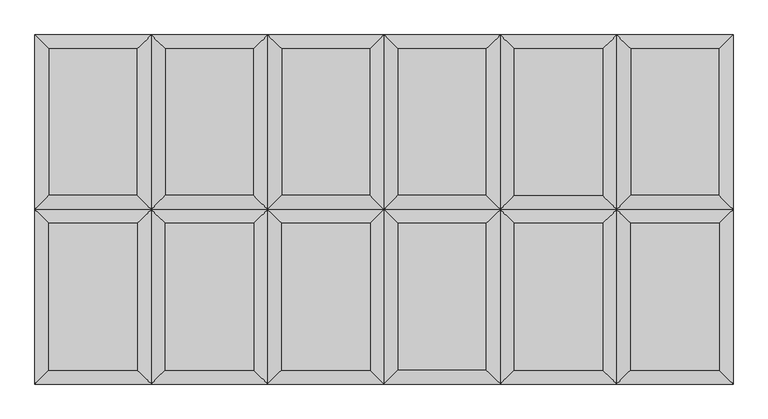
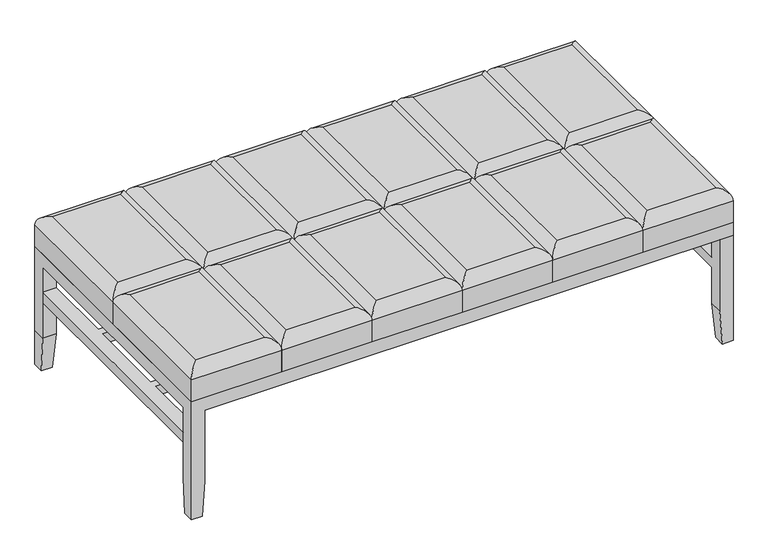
"""IFC4 building model written with IfcOpenShell, lengths in millimetres: furniture geometry, Steelcase Coalesse - Passerelle - Seating - Bench : 30D x 60W."""

from ifc_helpers import new_model, si_unit, frame, origin, place, context, project, spatial, ellipse_curve, faceted_brep, source, transform, mapped, element, save
from ifc_brep_helpers import plane_surface, cylinder_surface, advanced_brep


def furniture_c56e84ff(model_context):
    return source(origin(), model_context, "Body", "SolidModel", [
        advanced_brep(
        [(-440.4626774, -520.0027195, 446.5766733), (-440.4626774, -200.0922303, 446.5766733), (-633.3731666, -200.0922303, 446.5766733), (-633.3731666, -520.0027195, 446.5766733), (-409.917922, -169.5474749, 351.3266733), (-409.917922, -550.5474749, 351.3266733), (-663.917922, -550.5474749, 351.3266733), (-663.917922, -169.5474749, 351.3266733), (-409.917922, -169.5474749, 416.0319179), (-409.917922, -550.5474749, 416.0319179), (-663.917922, -550.5474749, 416.0319179), (-663.917922, -169.5474749, 416.0319179)],
        [
            (0, 1),
            (1, 2),
            (2, 3),
            (3, 0),
            (4, 5),
            (5, 6),
            (6, 7),
            (7, 4),
            (8, 1, ellipse_curve(frame((-440.4626774, -200.0922303, 416.0319179), z_axis=(0.7071067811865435, -0.7071067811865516, 0.0), x_axis=(0.7071067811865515, 0.7071067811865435, 0.0)), 43.1968073, 30.5447554)),
            (0, 9, ellipse_curve(frame((-440.4626774, -520.0027195, 416.0319179), z_axis=(0.7071067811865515, 0.7071067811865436, 0.0), x_axis=(-0.7071067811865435, 0.7071067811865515, 0.0)), 43.1968073, 30.5447554)),
            (9, 8),
            (9, 5),
            (4, 8),
            (3, 10, ellipse_curve(frame((-633.3731666, -520.0027195, 416.0319179), z_axis=(0.7071067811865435, -0.7071067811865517, 0.0), x_axis=(0.7071067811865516, 0.7071067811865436, 0.0)), 43.1968073, 30.5447554)),
            (10, 9),
            (10, 6),
            (2, 11, ellipse_curve(frame((-633.3731666, -200.0922303, 416.0319179), z_axis=(-0.7071067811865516, -0.7071067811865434, 0.0), x_axis=(0.7071067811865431, -0.7071067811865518, 0.0)), 43.1968073, 30.5447554)),
            (11, 10),
            (11, 7),
            (8, 11),
        ],
        [
            plane_surface(frame((-625.817922, -207.6474749, 446.5766733), z_axis=(0.0, 0.0, 1.0), x_axis=(-1.0, 0.0, 0.0))),
            plane_surface(frame((-625.817922, -207.6474749, 351.3266733), z_axis=(0.0, 0.0, -1.0), x_axis=(1.0, 0.0, 0.0))),
            cylinder_surface(frame((-440.4626774, -169.5474749, 416.0319179), z_axis=(0.0, 1.0, 0.0), x_axis=(1.0, 0.0, 0.0)), 30.5447554),
            plane_surface(frame((-409.917922, -169.5474749, 416.0319179), z_axis=(1.0, 0.0, 0.0), x_axis=(0.0, -1.0, 0.0))),
            cylinder_surface(frame((-409.917922, -520.0027195, 416.0319179), z_axis=(1.0, 0.0, 0.0), x_axis=(0.0, -1.0, 0.0)), 30.5447554),
            plane_surface(frame((-409.917922, -550.5474749, 416.0319179), z_axis=(0.0, -1.0, 0.0), x_axis=(-1.0, 0.0, 0.0))),
            cylinder_surface(frame((-633.3731666, -550.5474749, 416.0319179), z_axis=(0.0, -1.0, 0.0), x_axis=(-1.0, 0.0, 0.0)), 30.5447554),
            plane_surface(frame((-663.917922, -550.5474749, 416.0319179), z_axis=(-1.0, 0.0, 0.0), x_axis=(0.0, 1.0, 0.0))),
            cylinder_surface(frame((-663.917922, -200.0922303, 416.0319179), z_axis=(-1.0, 0.0, 0.0), x_axis=(0.0, 1.0, 0.0)), 30.5447554),
            plane_surface(frame((-663.917922, -169.5474749, 416.0319179), z_axis=(0.0, 1.0, 0.0), x_axis=(1.0, 0.0, 0.0))),
        ],
        [
            (0, [[1, 2, 3, 4]]),
            (1, [[5, 6, 7, 8]]),
            (2, [[9, -1, 10, 11]]),
            (3, [[-11, 12, -5, 13]]),
            (4, [[-10, -4, 14, 15]]),
            (5, [[-12, -15, 16, -6]]),
            (6, [[-14, -3, 17, 18]]),
            (7, [[-16, -18, 19, -7]]),
            (8, [[-9, 20, -17, -2]]),
            (9, [[-13, -8, -19, -20]]),
        ],
    ),
        advanced_brep(
        [(-186.4626774, -520.0027195, 446.5766733), (-186.4626774, -200.0922303, 446.5766733), (-379.3731666, -200.0922303, 446.5766733), (-379.3731666, -520.0027195, 446.5766733), (-155.917922, -169.5474749, 351.3266733), (-155.917922, -550.5474749, 351.3266733), (-409.917922, -550.5474749, 351.3266733), (-409.917922, -169.5474749, 351.3266733), (-155.917922, -169.5474749, 416.0319179), (-155.917922, -550.5474749, 416.0319179), (-409.917922, -550.5474749, 416.0319179), (-409.917922, -169.5474749, 416.0319179)],
        [
            (0, 1),
            (1, 2),
            (2, 3),
            (3, 0),
            (4, 5),
            (5, 6),
            (6, 7),
            (7, 4),
            (8, 1, ellipse_curve(frame((-186.4626774, -200.0922303, 416.0319179), z_axis=(0.7071067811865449, -0.70710678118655, 0.0), x_axis=(0.70710678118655, 0.707106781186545, 0.0)), 43.1968073, 30.5447554)),
            (0, 9, ellipse_curve(frame((-186.4626774, -520.0027195, 416.0319179), z_axis=(0.7071067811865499, 0.707106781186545, 0.0), x_axis=(-0.7071067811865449, 0.7071067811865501, 0.0)), 43.1968073, 30.5447554)),
            (9, 8),
            (9, 5),
            (4, 8),
            (3, 10, ellipse_curve(frame((-379.3731666, -520.0027195, 416.0319179), z_axis=(0.7071067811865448, -0.7071067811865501, 0.0), x_axis=(0.7071067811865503, 0.7071067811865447, 0.0)), 43.1968073, 30.5447554)),
            (10, 9),
            (10, 6),
            (2, 11, ellipse_curve(frame((-379.3731666, -200.0922303, 416.0319179), z_axis=(-0.7071067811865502, -0.7071067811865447, 0.0), x_axis=(0.7071067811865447, -0.7071067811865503, 0.0)), 43.1968073, 30.5447554)),
            (11, 10),
            (11, 7),
            (8, 11),
        ],
        [
            plane_surface(frame((-371.817922, -207.6474749, 446.5766733), z_axis=(0.0, 0.0, 1.0), x_axis=(-1.0, 0.0, 0.0))),
            plane_surface(frame((-371.817922, -207.6474749, 351.3266733), z_axis=(0.0, 0.0, -1.0), x_axis=(1.0, 0.0, 0.0))),
            cylinder_surface(frame((-186.4626774, -169.5474749, 416.0319179), z_axis=(0.0, 1.0, 0.0), x_axis=(1.0, 0.0, 0.0)), 30.5447554),
            plane_surface(frame((-155.917922, -169.5474749, 416.0319179), z_axis=(1.0, 0.0, 0.0), x_axis=(0.0, -1.0, 0.0))),
            cylinder_surface(frame((-155.917922, -520.0027195, 416.0319179), z_axis=(1.0, 0.0, 0.0), x_axis=(0.0, -1.0, 0.0)), 30.5447554),
            plane_surface(frame((-155.917922, -550.5474749, 416.0319179), z_axis=(0.0, -1.0, 0.0), x_axis=(-1.0, 0.0, 0.0))),
            cylinder_surface(frame((-379.3731666, -550.5474749, 416.0319179), z_axis=(0.0, -1.0, 0.0), x_axis=(-1.0, 0.0, 0.0)), 30.5447554),
            plane_surface(frame((-409.917922, -550.5474749, 416.0319179), z_axis=(-1.0, 0.0, 0.0), x_axis=(0.0, 1.0, 0.0))),
            cylinder_surface(frame((-409.917922, -200.0922303, 416.0319179), z_axis=(-1.0, 0.0, 0.0), x_axis=(0.0, 1.0, 0.0)), 30.5447554),
            plane_surface(frame((-409.917922, -169.5474749, 416.0319179), z_axis=(0.0, 1.0, 0.0), x_axis=(1.0, 0.0, 0.0))),
        ],
        [
            (0, [[1, 2, 3, 4]]),
            (1, [[5, 6, 7, 8]]),
            (2, [[9, -1, 10, 11]]),
            (3, [[-11, 12, -5, 13]]),
            (4, [[-10, -4, 14, 15]]),
            (5, [[-12, -15, 16, -6]]),
            (6, [[-14, -3, 17, 18]]),
            (7, [[-16, -18, 19, -7]]),
            (8, [[-9, 20, -17, -2]]),
            (9, [[-13, -8, -19, -20]]),
        ],
    ),
        advanced_brep(
        [(67.5373226, -520.0027195, 446.5766733), (67.5373226, -200.0922303, 446.5766733), (-125.3731666, -200.0922303, 446.5766733), (-125.3731666, -520.0027195, 446.5766733), (98.082078, -169.5474749, 351.3266733), (98.082078, -550.5474749, 351.3266733), (-155.917922, -550.5474749, 351.3266733), (-155.917922, -169.5474749, 351.3266733), (98.082078, -169.5474749, 416.0319179), (98.082078, -550.5474749, 416.0319179), (-155.917922, -550.5474749, 416.0319179), (-155.917922, -169.5474749, 416.0319179)],
        [
            (0, 1),
            (1, 2),
            (2, 3),
            (3, 0),
            (4, 5),
            (5, 6),
            (6, 7),
            (7, 4),
            (8, 1, ellipse_curve(frame((67.5373226, -200.0922303, 416.0319179), z_axis=(0.7071067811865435, -0.7071067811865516, 0.0), x_axis=(0.7071067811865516, 0.7071067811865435, 0.0)), 43.1968073, 30.5447554)),
            (0, 9, ellipse_curve(frame((67.5373226, -520.0027195, 416.0319179), z_axis=(0.7071067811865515, 0.7071067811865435, 0.0), x_axis=(-0.7071067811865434, 0.7071067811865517, 0.0)), 43.1968073, 30.5447554)),
            (9, 8),
            (9, 5),
            (4, 8),
            (3, 10, ellipse_curve(frame((-125.3731666, -520.0027195, 416.0319179), z_axis=(0.7071067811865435, -0.7071067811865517, 0.0), x_axis=(0.7071067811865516, 0.7071067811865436, 0.0)), 43.1968073, 30.5447554)),
            (10, 9),
            (10, 6),
            (2, 11, ellipse_curve(frame((-125.3731666, -200.0922303, 416.0319179), z_axis=(-0.7071067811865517, -0.7071067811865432, 0.0), x_axis=(0.707106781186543, -0.7071067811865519, 0.0)), 43.1968073, 30.5447554)),
            (11, 10),
            (11, 7),
            (8, 11),
        ],
        [
            plane_surface(frame((-117.817922, -207.6474749, 446.5766733), z_axis=(0.0, 0.0, 1.0), x_axis=(-1.0, 0.0, 0.0))),
            plane_surface(frame((-117.817922, -207.6474749, 351.3266733), z_axis=(0.0, 0.0, -1.0), x_axis=(1.0, 0.0, 0.0))),
            cylinder_surface(frame((67.5373226, -169.5474749, 416.0319179), z_axis=(0.0, 1.0, 0.0), x_axis=(1.0, 0.0, 0.0)), 30.5447554),
            plane_surface(frame((98.082078, -169.5474749, 416.0319179), z_axis=(1.0, 0.0, 0.0), x_axis=(0.0, -1.0, 0.0))),
            cylinder_surface(frame((98.082078, -520.0027195, 416.0319179), z_axis=(1.0, 0.0, 0.0), x_axis=(0.0, -1.0, 0.0)), 30.5447554),
            plane_surface(frame((98.082078, -550.5474749, 416.0319179), z_axis=(0.0, -1.0, 0.0), x_axis=(-1.0, 0.0, 0.0))),
            cylinder_surface(frame((-125.3731666, -550.5474749, 416.0319179), z_axis=(0.0, -1.0, 0.0), x_axis=(-1.0, 0.0, 0.0)), 30.5447554),
            plane_surface(frame((-155.917922, -550.5474749, 416.0319179), z_axis=(-1.0, 0.0, 0.0), x_axis=(0.0, 1.0, 0.0))),
            cylinder_surface(frame((-155.917922, -200.0922303, 416.0319179), z_axis=(-1.0, 0.0, 0.0), x_axis=(0.0, 1.0, 0.0)), 30.5447554),
            plane_surface(frame((-155.917922, -169.5474749, 416.0319179), z_axis=(0.0, 1.0, 0.0), x_axis=(1.0, 0.0, 0.0))),
        ],
        [
            (0, [[1, 2, 3, 4]]),
            (1, [[5, 6, 7, 8]]),
            (2, [[9, -1, 10, 11]]),
            (3, [[-11, 12, -5, 13]]),
            (4, [[-10, -4, 14, 15]]),
            (5, [[-12, -15, 16, -6]]),
            (6, [[-14, -3, 17, 18]]),
            (7, [[-16, -18, 19, -7]]),
            (8, [[-9, 20, -17, -2]]),
            (9, [[-13, -8, -19, -20]]),
        ],
    ),
        advanced_brep(
        [(352.082078, -169.5474749, 416.0319179), (321.5373226, -200.0922303, 446.5766733), (321.5373226, -520.0027195, 446.5766733), (352.082078, -550.5474749, 416.0319179), (352.082078, -550.5474749, 351.3266733), (352.082078, -169.5474749, 351.3266733), (128.6268334, -520.0027195, 446.5766733), (98.082078, -550.5474749, 416.0319179), (98.082078, -550.5474749, 351.3266733), (128.6268334, -200.0922303, 446.5766733), (98.082078, -169.5474749, 416.0319179), (98.082078, -169.5474749, 351.3266733)],
        [
            (0, 1, ellipse_curve(frame((321.5373226, -200.0922303, 416.0319179), z_axis=(0.7071067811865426, -0.7071067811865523, 0.0), x_axis=(0.7071067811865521, 0.7071067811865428, 0.0)), 43.1968073, 30.5447554)),
            (1, 2),
            (2, 3, ellipse_curve(frame((321.5373226, -520.0027195, 416.0319179), z_axis=(0.7071067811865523, 0.7071067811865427, 0.0), x_axis=(-0.7071067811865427, 0.7071067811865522, 0.0)), 43.1968073, 30.5447554)),
            (3, 0),
            (3, 4),
            (4, 5),
            (5, 0),
            (2, 6),
            (6, 7, ellipse_curve(frame((128.6268334, -520.0027195, 416.0319179), z_axis=(0.7071067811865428, -0.7071067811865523, 0.0), x_axis=(0.7071067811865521, 0.7071067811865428, 0.0)), 43.1968073, 30.5447554)),
            (7, 3),
            (7, 8),
            (8, 4),
            (6, 9),
            (9, 10, ellipse_curve(frame((128.6268334, -200.0922303, 416.0319179), z_axis=(-0.7071067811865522, -0.7071067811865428, 0.0), x_axis=(0.7071067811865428, -0.7071067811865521, 0.0)), 43.1968073, 30.5447554)),
            (10, 7),
            (10, 11),
            (11, 8),
            (1, 9),
            (0, 10),
            (5, 11),
        ],
        [
            cylinder_surface(frame((321.5373226, -169.5474749, 416.0319179), z_axis=(0.0, 1.0, 0.0), x_axis=(1.0, 0.0, 0.0)), 30.5447554),
            plane_surface(frame((352.082078, -169.5474749, 416.0319179), z_axis=(1.0, 0.0, 0.0), x_axis=(0.0, -1.0, 0.0))),
            cylinder_surface(frame((352.082078, -520.0027195, 416.0319179), z_axis=(1.0, 0.0, 0.0), x_axis=(0.0, -1.0, 0.0)), 30.5447554),
            plane_surface(frame((352.082078, -550.5474749, 416.0319179), z_axis=(0.0, -1.0, 0.0), x_axis=(-1.0, 0.0, 0.0))),
            cylinder_surface(frame((128.6268334, -550.5474749, 416.0319179), z_axis=(0.0, -1.0, 0.0), x_axis=(-1.0, 0.0, 0.0)), 30.5447554),
            plane_surface(frame((98.082078, -550.5474749, 416.0319179), z_axis=(-1.0, 0.0, 0.0), x_axis=(0.0, 1.0, 0.0))),
            plane_surface(frame((136.182078, -207.6474749, 446.5766733), z_axis=(0.0, 0.0, 1.0), x_axis=(1.0, 0.0, 0.0))),
            cylinder_surface(frame((98.082078, -200.0922303, 416.0319179), z_axis=(-1.0, 0.0, 0.0), x_axis=(0.0, 1.0, 0.0)), 30.5447554),
            plane_surface(frame((98.082078, -169.5474749, 416.0319179), z_axis=(0.0, 1.0, 0.0), x_axis=(1.0, 0.0, 0.0))),
            plane_surface(frame((98.082078, -169.5474749, 351.3266733), z_axis=(0.0, 0.0, -1.0), x_axis=(1.0, 0.0, 0.0))),
        ],
        [
            (0, [[1, 2, 3, 4]]),
            (1, [[-4, 5, 6, 7]]),
            (2, [[-3, 8, 9, 10]]),
            (3, [[-5, -10, 11, 12]]),
            (4, [[-9, 13, 14, 15]]),
            (5, [[-11, -15, 16, 17]]),
            (6, [[-2, 18, -13, -8]]),
            (7, [[-1, 19, -14, -18]]),
            (8, [[-7, 20, -16, -19]]),
            (9, [[-6, -12, -17, -20]]),
        ],
    ),
        advanced_brep(
        [(575.5373226, -520.0027195, 446.5766733), (575.5373226, -200.0922303, 446.5766733), (382.6268334, -200.0922303, 446.5766733), (382.6268334, -520.0027195, 446.5766733), (606.082078, -169.5474749, 351.3266733), (606.082078, -550.5474749, 351.3266733), (352.082078, -550.5474749, 351.3266733), (352.082078, -169.5474749, 351.3266733), (606.082078, -169.5474749, 416.0319179), (606.082078, -550.5474749, 416.0319179), (352.082078, -550.5474749, 416.0319179), (352.082078, -169.5474749, 416.0319179)],
        [
            (0, 1),
            (1, 2),
            (2, 3),
            (3, 0),
            (4, 5),
            (5, 6),
            (6, 7),
            (7, 4),
            (8, 1, ellipse_curve(frame((575.5373226, -200.0922303, 416.0319179), z_axis=(0.7071067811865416, -0.7071067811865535, 0.0), x_axis=(0.7071067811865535, 0.7071067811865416, 0.0)), 43.1968073, 30.5447554)),
            (0, 9, ellipse_curve(frame((575.5373226, -520.0027195, 416.0319179), z_axis=(0.7071067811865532, 0.7071067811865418, 0.0), x_axis=(-0.7071067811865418, 0.7071067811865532, 0.0)), 43.1968073, 30.5447554)),
            (9, 8),
            (9, 5),
            (4, 8),
            (3, 10, ellipse_curve(frame((382.6268334, -520.0027195, 416.0319179), z_axis=(0.7071067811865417, -0.7071067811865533, 0.0), x_axis=(0.7071067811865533, 0.7071067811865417, 0.0)), 43.1968073, 30.5447554)),
            (10, 9),
            (10, 6),
            (2, 11, ellipse_curve(frame((382.6268334, -200.0922303, 416.0319179), z_axis=(-0.7071067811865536, -0.7071067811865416, 0.0), x_axis=(0.7071067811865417, -0.7071067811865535, 0.0)), 43.1968073, 30.5447554)),
            (11, 10),
            (11, 7),
            (8, 11),
        ],
        [
            plane_surface(frame((390.182078, -207.6474749, 446.5766733), z_axis=(0.0, 0.0, 1.0), x_axis=(-1.0, 0.0, 0.0))),
            plane_surface(frame((390.182078, -207.6474749, 351.3266733), z_axis=(0.0, 0.0, -1.0), x_axis=(1.0, 0.0, 0.0))),
            cylinder_surface(frame((575.5373226, -169.5474749, 416.0319179), z_axis=(0.0, 1.0, 0.0), x_axis=(1.0, 0.0, 0.0)), 30.5447554),
            plane_surface(frame((606.082078, -169.5474749, 416.0319179), z_axis=(1.0, 0.0, 0.0), x_axis=(0.0, -1.0, 0.0))),
            cylinder_surface(frame((606.082078, -520.0027195, 416.0319179), z_axis=(1.0, 0.0, 0.0), x_axis=(0.0, -1.0, 0.0)), 30.5447554),
            plane_surface(frame((606.082078, -550.5474749, 416.0319179), z_axis=(0.0, -1.0, 0.0), x_axis=(-1.0, 0.0, 0.0))),
            cylinder_surface(frame((382.6268334, -550.5474749, 416.0319179), z_axis=(0.0, -1.0, 0.0), x_axis=(-1.0, 0.0, 0.0)), 30.5447554),
            plane_surface(frame((352.082078, -550.5474749, 416.0319179), z_axis=(-1.0, 0.0, 0.0), x_axis=(0.0, 1.0, 0.0))),
            cylinder_surface(frame((352.082078, -200.0922303, 416.0319179), z_axis=(-1.0, 0.0, 0.0), x_axis=(0.0, 1.0, 0.0)), 30.5447554),
            plane_surface(frame((352.082078, -169.5474749, 416.0319179), z_axis=(0.0, 1.0, 0.0), x_axis=(1.0, 0.0, 0.0))),
        ],
        [
            (0, [[1, 2, 3, 4]]),
            (1, [[5, 6, 7, 8]]),
            (2, [[9, -1, 10, 11]]),
            (3, [[-11, 12, -5, 13]]),
            (4, [[-10, -4, 14, 15]]),
            (5, [[-12, -15, 16, -6]]),
            (6, [[-14, -3, 17, 18]]),
            (7, [[-16, -18, 19, -7]]),
            (8, [[-9, 20, -17, -2]]),
            (9, [[-13, -8, -19, -20]]),
        ],
    ),
        advanced_brep(
        [(829.5373226, -520.0027195, 446.5766733), (829.5373226, -200.0922303, 446.5766733), (636.6268334, -200.0922303, 446.5766733), (636.6268334, -520.0027195, 446.5766733), (860.082078, -169.5474749, 351.3266733), (860.082078, -550.5474749, 351.3266733), (606.082078, -550.5474749, 351.3266733), (606.082078, -169.5474749, 351.3266733), (860.082078, -169.5474749, 416.0319179), (860.082078, -550.5474749, 416.0319179), (606.082078, -550.5474749, 416.0319179), (606.082078, -169.5474749, 416.0319179)],
        [
            (0, 1),
            (1, 2),
            (2, 3),
            (3, 0),
            (4, 5),
            (5, 6),
            (6, 7),
            (7, 4),
            (8, 1, ellipse_curve(frame((829.5373226, -200.0922303, 416.0319179), z_axis=(0.7071067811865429, -0.7071067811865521, 0.0), x_axis=(0.7071067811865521, 0.7071067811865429, 0.0)), 43.1968073, 30.5447554)),
            (0, 9, ellipse_curve(frame((829.5373226, -520.0027195, 416.0319179), z_axis=(0.7071067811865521, 0.7071067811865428, 0.0), x_axis=(-0.7071067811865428, 0.7071067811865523, 0.0)), 43.1968073, 30.5447554)),
            (9, 8),
            (9, 5),
            (4, 8),
            (3, 10, ellipse_curve(frame((636.6268334, -520.0027195, 416.0319179), z_axis=(0.7071067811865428, -0.7071067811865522, 0.0), x_axis=(0.7071067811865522, 0.7071067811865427, 0.0)), 43.1968073, 30.5447554)),
            (10, 9),
            (10, 6),
            (2, 11, ellipse_curve(frame((636.6268334, -200.0922303, 416.0319179), z_axis=(-0.7071067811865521, -0.7071067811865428, 0.0), x_axis=(0.7071067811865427, -0.7071067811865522, 0.0)), 43.1968073, 30.5447554)),
            (11, 10),
            (11, 7),
            (8, 11),
        ],
        [
            plane_surface(frame((644.182078, -207.6474749, 446.5766733), z_axis=(0.0, 0.0, 1.0), x_axis=(-1.0, 0.0, 0.0))),
            plane_surface(frame((644.182078, -207.6474749, 351.3266733), z_axis=(0.0, 0.0, -1.0), x_axis=(1.0, 0.0, 0.0))),
            cylinder_surface(frame((829.5373226, -169.5474749, 416.0319179), z_axis=(0.0, 1.0, 0.0), x_axis=(1.0, 0.0, 0.0)), 30.5447554),
            plane_surface(frame((860.082078, -169.5474749, 416.0319179), z_axis=(1.0, 0.0, 0.0), x_axis=(0.0, -1.0, 0.0))),
            cylinder_surface(frame((860.082078, -520.0027195, 416.0319179), z_axis=(1.0, 0.0, 0.0), x_axis=(0.0, -1.0, 0.0)), 30.5447554),
            plane_surface(frame((860.082078, -550.5474749, 416.0319179), z_axis=(0.0, -1.0, 0.0), x_axis=(-1.0, 0.0, 0.0))),
            cylinder_surface(frame((636.6268334, -550.5474749, 416.0319179), z_axis=(0.0, -1.0, 0.0), x_axis=(-1.0, 0.0, 0.0)), 30.5447554),
            plane_surface(frame((606.082078, -550.5474749, 416.0319179), z_axis=(-1.0, 0.0, 0.0), x_axis=(0.0, 1.0, 0.0))),
            cylinder_surface(frame((606.082078, -200.0922303, 416.0319179), z_axis=(-1.0, 0.0, 0.0), x_axis=(0.0, 1.0, 0.0)), 30.5447554),
            plane_surface(frame((606.082078, -169.5474749, 416.0319179), z_axis=(0.0, 1.0, 0.0), x_axis=(1.0, 0.0, 0.0))),
        ],
        [
            (0, [[1, 2, 3, 4]]),
            (1, [[5, 6, 7, 8]]),
            (2, [[9, -1, 10, 11]]),
            (3, [[-11, 12, -5, 13]]),
            (4, [[-10, -4, 14, 15]]),
            (5, [[-12, -15, 16, -6]]),
            (6, [[-14, -3, 17, 18]]),
            (7, [[-16, -18, 19, -7]]),
            (8, [[-9, 20, -17, -2]]),
            (9, [[-13, -8, -19, -20]]),
        ],
    ),
        advanced_brep(
        [(-409.917922, 211.4525251, 416.0319179), (-440.4626774, 180.9077697, 446.5766733), (-440.4626774, -139.0027195, 446.5766733), (-409.917922, -169.5474749, 416.0319179), (-409.917922, -169.5474749, 351.3266733), (-409.917922, 211.4525251, 351.3266733), (-633.3731666, -139.0027195, 446.5766733), (-663.917922, -169.5474749, 416.0319179), (-663.917922, -169.5474749, 351.3266733), (-633.3731666, 180.9077697, 446.5766733), (-663.917922, 211.4525251, 416.0319179), (-663.917922, 211.4525251, 351.3266733)],
        [
            (0, 1, ellipse_curve(frame((-440.4626774, 180.9077697, 416.0319179), z_axis=(0.7071067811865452, -0.7071067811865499, 0.0), x_axis=(0.70710678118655, 0.7071067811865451, 0.0)), 43.1968073, 30.5447554)),
            (1, 2),
            (2, 3, ellipse_curve(frame((-440.4626774, -139.0027195, 416.0319179), z_axis=(0.7071067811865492, 0.7071067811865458, 0.0), x_axis=(-0.7071067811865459, 0.7071067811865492, 0.0)), 43.1968073, 30.5447554)),
            (3, 0),
            (3, 4),
            (4, 5),
            (5, 0),
            (2, 6),
            (6, 7, ellipse_curve(frame((-633.3731666, -139.0027195, 416.0319179), z_axis=(0.7071067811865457, -0.7071067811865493, 0.0), x_axis=(0.7071067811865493, 0.7071067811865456, 0.0)), 43.1968073, 30.5447554)),
            (7, 3),
            (7, 8),
            (8, 4),
            (6, 9),
            (9, 10, ellipse_curve(frame((-633.3731666, 180.9077697, 416.0319179), z_axis=(-0.7071067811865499, -0.707106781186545, 0.0), x_axis=(0.707106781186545, -0.70710678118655, 0.0)), 43.1968073, 30.5447554)),
            (10, 7),
            (10, 11),
            (11, 8),
            (1, 9),
            (0, 10),
            (5, 11),
        ],
        [
            cylinder_surface(frame((-440.4626774, 211.4525251, 416.0319179), z_axis=(0.0, 1.0, 0.0), x_axis=(1.0, 0.0, 0.0)), 30.5447554),
            plane_surface(frame((-409.917922, 211.4525251, 416.0319179), z_axis=(1.0, 0.0, 0.0), x_axis=(0.0, -1.0, 0.0))),
            cylinder_surface(frame((-409.917922, -139.0027195, 416.0319179), z_axis=(1.0, 0.0, 0.0), x_axis=(0.0, -1.0, 0.0)), 30.5447554),
            plane_surface(frame((-409.917922, -169.5474749, 416.0319179), z_axis=(0.0, -1.0, 0.0), x_axis=(-1.0, 0.0, 0.0))),
            cylinder_surface(frame((-633.3731666, -169.5474749, 416.0319179), z_axis=(0.0, -1.0, 0.0), x_axis=(-1.0, 0.0, 0.0)), 30.5447554),
            plane_surface(frame((-663.917922, -169.5474749, 416.0319179), z_axis=(-1.0, 0.0, 0.0), x_axis=(0.0, 1.0, 0.0))),
            plane_surface(frame((-625.817922, 173.3525251, 446.5766733), z_axis=(0.0, 0.0, 1.0), x_axis=(1.0, 0.0, 0.0))),
            cylinder_surface(frame((-663.917922, 180.9077697, 416.0319179), z_axis=(-1.0, 0.0, 0.0), x_axis=(0.0, 1.0, 0.0)), 30.5447554),
            plane_surface(frame((-663.917922, 211.4525251, 416.0319179), z_axis=(0.0, 1.0, 0.0), x_axis=(1.0, 0.0, 0.0))),
            plane_surface(frame((-663.917922, 211.4525251, 351.3266733), z_axis=(0.0, 0.0, -1.0), x_axis=(1.0, 0.0, 0.0))),
        ],
        [
            (0, [[1, 2, 3, 4]]),
            (1, [[-4, 5, 6, 7]]),
            (2, [[-3, 8, 9, 10]]),
            (3, [[-5, -10, 11, 12]]),
            (4, [[-9, 13, 14, 15]]),
            (5, [[-11, -15, 16, 17]]),
            (6, [[-2, 18, -13, -8]]),
            (7, [[-1, 19, -14, -18]]),
            (8, [[-7, 20, -16, -19]]),
            (9, [[-6, -12, -17, -20]]),
        ],
    ),
        advanced_brep(
        [(-155.917922, 211.4525251, 416.0319179), (-186.4626774, 180.9077697, 446.5766733), (-186.4626774, -139.0027195, 446.5766733), (-155.917922, -169.5474749, 416.0319179), (-155.917922, -169.5474749, 351.3266733), (-155.917922, 211.4525251, 351.3266733), (-379.3731666, -139.0027195, 446.5766733), (-409.917922, -169.5474749, 416.0319179), (-409.917922, -169.5474749, 351.3266733), (-379.3731666, 180.9077697, 446.5766733), (-409.917922, 211.4525251, 416.0319179), (-409.917922, 211.4525251, 351.3266733)],
        [
            (0, 1, ellipse_curve(frame((-186.4626774, 180.9077697, 416.0319179), z_axis=(0.7071067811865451, -0.70710678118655, 0.0), x_axis=(0.7071067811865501, 0.7071067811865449, 0.0)), 43.1968073, 30.5447554)),
            (1, 2),
            (2, 3, ellipse_curve(frame((-186.4626774, -139.0027195, 416.0319179), z_axis=(0.7071067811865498, 0.7071067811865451, 0.0), x_axis=(-0.7071067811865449, 0.70710678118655, 0.0)), 43.1968073, 30.5447554)),
            (3, 0),
            (3, 4),
            (4, 5),
            (5, 0),
            (2, 6),
            (6, 7, ellipse_curve(frame((-379.3731666, -139.0027195, 416.0319179), z_axis=(0.707106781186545, -0.70710678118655, 0.0), x_axis=(0.7071067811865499, 0.707106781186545, 0.0)), 43.1968073, 30.5447554)),
            (7, 3),
            (7, 8),
            (8, 4),
            (6, 9),
            (9, 10, ellipse_curve(frame((-379.3731666, 180.9077697, 416.0319179), z_axis=(-0.70710678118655, -0.7071067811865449, 0.0), x_axis=(0.7071067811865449, -0.7071067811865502, 0.0)), 43.1968073, 30.5447554)),
            (10, 7),
            (10, 11),
            (11, 8),
            (1, 9),
            (0, 10),
            (5, 11),
        ],
        [
            cylinder_surface(frame((-186.4626774, 211.4525251, 416.0319179), z_axis=(0.0, 1.0, 0.0), x_axis=(1.0, 0.0, 0.0)), 30.5447554),
            plane_surface(frame((-155.917922, 211.4525251, 416.0319179), z_axis=(1.0, 0.0, 0.0), x_axis=(0.0, -1.0, 0.0))),
            cylinder_surface(frame((-155.917922, -139.0027195, 416.0319179), z_axis=(1.0, 0.0, 0.0), x_axis=(0.0, -1.0, 0.0)), 30.5447554),
            plane_surface(frame((-155.917922, -169.5474749, 416.0319179), z_axis=(0.0, -1.0, 0.0), x_axis=(-1.0, 0.0, 0.0))),
            cylinder_surface(frame((-379.3731666, -169.5474749, 416.0319179), z_axis=(0.0, -1.0, 0.0), x_axis=(-1.0, 0.0, 0.0)), 30.5447554),
            plane_surface(frame((-409.917922, -169.5474749, 416.0319179), z_axis=(-1.0, 0.0, 0.0), x_axis=(0.0, 1.0, 0.0))),
            plane_surface(frame((-371.817922, 173.3525251, 446.5766733), z_axis=(0.0, 0.0, 1.0), x_axis=(1.0, 0.0, 0.0))),
            cylinder_surface(frame((-409.917922, 180.9077697, 416.0319179), z_axis=(-1.0, 0.0, 0.0), x_axis=(0.0, 1.0, 0.0)), 30.5447554),
            plane_surface(frame((-409.917922, 211.4525251, 416.0319179), z_axis=(0.0, 1.0, 0.0), x_axis=(1.0, 0.0, 0.0))),
            plane_surface(frame((-409.917922, 211.4525251, 351.3266733), z_axis=(0.0, 0.0, -1.0), x_axis=(1.0, 0.0, 0.0))),
        ],
        [
            (0, [[1, 2, 3, 4]]),
            (1, [[-4, 5, 6, 7]]),
            (2, [[-3, 8, 9, 10]]),
            (3, [[-5, -10, 11, 12]]),
            (4, [[-9, 13, 14, 15]]),
            (5, [[-11, -15, 16, 17]]),
            (6, [[-2, 18, -13, -8]]),
            (7, [[-1, 19, -14, -18]]),
            (8, [[-7, 20, -16, -19]]),
            (9, [[-6, -12, -17, -20]]),
        ],
    ),
        advanced_brep(
        [(98.082078, 211.4525251, 416.0319179), (67.5373226, 180.9077697, 446.5766733), (67.5373226, -139.0027195, 446.5766733), (98.082078, -169.5474749, 416.0319179), (98.082078, -169.5474749, 351.3266733), (98.082078, 211.4525251, 351.3266733), (-125.3731666, -139.0027195, 446.5766733), (-155.917922, -169.5474749, 416.0319179), (-155.917922, -169.5474749, 351.3266733), (-125.3731666, 180.9077697, 446.5766733), (-155.917922, 211.4525251, 416.0319179), (-155.917922, 211.4525251, 351.3266733)],
        [
            (0, 1, ellipse_curve(frame((67.5373226, 180.9077697, 416.0319179), z_axis=(0.7071067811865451, -0.7071067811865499, 0.0), x_axis=(0.70710678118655, 0.7071067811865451, 0.0)), 43.1968073, 30.5447554)),
            (1, 2),
            (2, 3, ellipse_curve(frame((67.5373226, -139.0027195, 416.0319179), z_axis=(0.7071067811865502, 0.7071067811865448, 0.0), x_axis=(-0.7071067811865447, 0.7071067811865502, 0.0)), 43.1968073, 30.5447554)),
            (3, 0),
            (3, 4),
            (4, 5),
            (5, 0),
            (2, 6),
            (6, 7, ellipse_curve(frame((-125.3731666, -139.0027195, 416.0319179), z_axis=(0.7071067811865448, -0.7071067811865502, 0.0), x_axis=(0.7071067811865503, 0.7071067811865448, 0.0)), 43.1968073, 30.5447554)),
            (7, 3),
            (7, 8),
            (8, 4),
            (6, 9),
            (9, 10, ellipse_curve(frame((-125.3731666, 180.9077697, 416.0319179), z_axis=(-0.70710678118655, -0.7071067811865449, 0.0), x_axis=(0.7071067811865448, -0.7071067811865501, 0.0)), 43.1968073, 30.5447554)),
            (10, 7),
            (10, 11),
            (11, 8),
            (1, 9),
            (0, 10),
            (5, 11),
        ],
        [
            cylinder_surface(frame((67.5373226, 211.4525251, 416.0319179), z_axis=(0.0, 1.0, 0.0), x_axis=(1.0, 0.0, 0.0)), 30.5447554),
            plane_surface(frame((98.082078, 211.4525251, 416.0319179), z_axis=(1.0, 0.0, 0.0), x_axis=(0.0, -1.0, 0.0))),
            cylinder_surface(frame((98.082078, -139.0027195, 416.0319179), z_axis=(1.0, 0.0, 0.0), x_axis=(0.0, -1.0, 0.0)), 30.5447554),
            plane_surface(frame((98.082078, -169.5474749, 416.0319179), z_axis=(0.0, -1.0, 0.0), x_axis=(-1.0, 0.0, 0.0))),
            cylinder_surface(frame((-125.3731666, -169.5474749, 416.0319179), z_axis=(0.0, -1.0, 0.0), x_axis=(-1.0, 0.0, 0.0)), 30.5447554),
            plane_surface(frame((-155.917922, -169.5474749, 416.0319179), z_axis=(-1.0, 0.0, 0.0), x_axis=(0.0, 1.0, 0.0))),
            plane_surface(frame((-117.817922, 173.3525251, 446.5766733), z_axis=(0.0, 0.0, 1.0), x_axis=(1.0, 0.0, 0.0))),
            cylinder_surface(frame((-155.917922, 180.9077697, 416.0319179), z_axis=(-1.0, 0.0, 0.0), x_axis=(0.0, 1.0, 0.0)), 30.5447554),
            plane_surface(frame((-155.917922, 211.4525251, 416.0319179), z_axis=(0.0, 1.0, 0.0), x_axis=(1.0, 0.0, 0.0))),
            plane_surface(frame((-155.917922, 211.4525251, 351.3266733), z_axis=(0.0, 0.0, -1.0), x_axis=(1.0, 0.0, 0.0))),
        ],
        [
            (0, [[1, 2, 3, 4]]),
            (1, [[-4, 5, 6, 7]]),
            (2, [[-3, 8, 9, 10]]),
            (3, [[-5, -10, 11, 12]]),
            (4, [[-9, 13, 14, 15]]),
            (5, [[-11, -15, 16, 17]]),
            (6, [[-2, 18, -13, -8]]),
            (7, [[-1, 19, -14, -18]]),
            (8, [[-7, 20, -16, -19]]),
            (9, [[-6, -12, -17, -20]]),
        ],
    ),
        advanced_brep(
        [(352.082078, 211.4525251, 416.0319179), (321.5373226, 180.9077697, 446.5766733), (321.5373226, -139.0027195, 446.5766733), (352.082078, -169.5474749, 416.0319179), (352.082078, -169.5474749, 351.3266733), (352.082078, 211.4525251, 351.3266733), (128.6268334, -139.0027195, 446.5766733), (98.082078, -169.5474749, 416.0319179), (98.082078, -169.5474749, 351.3266733), (128.6268334, 180.9077697, 446.5766733), (98.082078, 211.4525251, 416.0319179), (98.082078, 211.4525251, 351.3266733)],
        [
            (0, 1, ellipse_curve(frame((321.5373226, 180.9077697, 416.0319179), z_axis=(0.7071067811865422, -0.7071067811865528, 0.0), x_axis=(0.7071067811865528, 0.7071067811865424, 0.0)), 43.1968073, 30.5447554)),
            (1, 2),
            (2, 3, ellipse_curve(frame((321.5373226, -139.0027195, 416.0319179), z_axis=(0.7071067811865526, 0.7071067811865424, 0.0), x_axis=(-0.7071067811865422, 0.7071067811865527, 0.0)), 43.1968073, 30.5447554)),
            (3, 0),
            (3, 4),
            (4, 5),
            (5, 0),
            (2, 6),
            (6, 7, ellipse_curve(frame((128.6268334, -139.0027195, 416.0319179), z_axis=(0.7071067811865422, -0.7071067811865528, 0.0), x_axis=(0.7071067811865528, 0.7071067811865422, 0.0)), 43.1968073, 30.5447554)),
            (7, 3),
            (7, 8),
            (8, 4),
            (6, 9),
            (9, 10, ellipse_curve(frame((128.6268334, 180.9077697, 416.0319179), z_axis=(-0.7071067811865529, -0.7071067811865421, 0.0), x_axis=(0.7071067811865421, -0.7071067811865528, 0.0)), 43.1968073, 30.5447554)),
            (10, 7),
            (10, 11),
            (11, 8),
            (1, 9),
            (0, 10),
            (5, 11),
        ],
        [
            cylinder_surface(frame((321.5373226, 211.4525251, 416.0319179), z_axis=(0.0, 1.0, 0.0), x_axis=(1.0, 0.0, 0.0)), 30.5447554),
            plane_surface(frame((352.082078, 211.4525251, 416.0319179), z_axis=(1.0, 0.0, 0.0), x_axis=(0.0, -1.0, 0.0))),
            cylinder_surface(frame((352.082078, -139.0027195, 416.0319179), z_axis=(1.0, 0.0, 0.0), x_axis=(0.0, -1.0, 0.0)), 30.5447554),
            plane_surface(frame((352.082078, -169.5474749, 416.0319179), z_axis=(0.0, -1.0, 0.0), x_axis=(-1.0, 0.0, 0.0))),
            cylinder_surface(frame((128.6268334, -169.5474749, 416.0319179), z_axis=(0.0, -1.0, 0.0), x_axis=(-1.0, 0.0, 0.0)), 30.5447554),
            plane_surface(frame((98.082078, -169.5474749, 416.0319179), z_axis=(-1.0, 0.0, 0.0), x_axis=(0.0, 1.0, 0.0))),
            plane_surface(frame((136.182078, 173.3525251, 446.5766733), z_axis=(0.0, 0.0, 1.0), x_axis=(1.0, 0.0, 0.0))),
            cylinder_surface(frame((98.082078, 180.9077697, 416.0319179), z_axis=(-1.0, 0.0, 0.0), x_axis=(0.0, 1.0, 0.0)), 30.5447554),
            plane_surface(frame((98.082078, 211.4525251, 416.0319179), z_axis=(0.0, 1.0, 0.0), x_axis=(1.0, 0.0, 0.0))),
            plane_surface(frame((98.082078, 211.4525251, 351.3266733), z_axis=(0.0, 0.0, -1.0), x_axis=(1.0, 0.0, 0.0))),
        ],
        [
            (0, [[1, 2, 3, 4]]),
            (1, [[-4, 5, 6, 7]]),
            (2, [[-3, 8, 9, 10]]),
            (3, [[-5, -10, 11, 12]]),
            (4, [[-9, 13, 14, 15]]),
            (5, [[-11, -15, 16, 17]]),
            (6, [[-2, 18, -13, -8]]),
            (7, [[-1, 19, -14, -18]]),
            (8, [[-7, 20, -16, -19]]),
            (9, [[-6, -12, -17, -20]]),
        ],
    ),
        advanced_brep(
        [(575.5373226, -139.0027195, 446.5766733), (575.5373226, 180.9077697, 446.5766733), (382.6268334, 180.9077697, 446.5766733), (382.6268334, -139.0027195, 446.5766733), (606.082078, 211.4525251, 351.3266733), (606.082078, -169.5474749, 351.3266733), (352.082078, -169.5474749, 351.3266733), (352.082078, 211.4525251, 351.3266733), (606.082078, 211.4525251, 416.0319179), (606.082078, -169.5474749, 416.0319179), (352.082078, -169.5474749, 416.0319179), (352.082078, 211.4525251, 416.0319179)],
        [
            (0, 1),
            (1, 2),
            (2, 3),
            (3, 0),
            (4, 5),
            (5, 6),
            (6, 7),
            (7, 4),
            (8, 1, ellipse_curve(frame((575.5373226, 180.9077697, 416.0319179), z_axis=(0.7071067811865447, -0.7071067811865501, 0.0), x_axis=(0.7071067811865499, 0.7071067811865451, 0.0)), 43.1968073, 30.5447554)),
            (0, 9, ellipse_curve(frame((575.5373226, -139.0027195, 416.0319179), z_axis=(0.7071067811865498, 0.7071067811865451, 0.0), x_axis=(-0.7071067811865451, 0.70710678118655, 0.0)), 43.1968073, 30.5447554)),
            (9, 8),
            (9, 5),
            (4, 8),
            (3, 10, ellipse_curve(frame((382.6268334, -139.0027195, 416.0319179), z_axis=(0.707106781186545, -0.70710678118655, 0.0), x_axis=(0.70710678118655, 0.7071067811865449, 0.0)), 43.1968073, 30.5447554)),
            (10, 9),
            (10, 6),
            (2, 11, ellipse_curve(frame((382.6268334, 180.9077697, 416.0319179), z_axis=(-0.7071067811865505, -0.7071067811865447, 0.0), x_axis=(0.7071067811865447, -0.7071067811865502, 0.0)), 43.1968073, 30.5447554)),
            (11, 10),
            (11, 7),
            (8, 11),
        ],
        [
            plane_surface(frame((390.182078, 173.3525251, 446.5766733), z_axis=(0.0, 0.0, 1.0), x_axis=(-1.0, 0.0, 0.0))),
            plane_surface(frame((390.182078, 173.3525251, 351.3266733), z_axis=(0.0, 0.0, -1.0), x_axis=(1.0, 0.0, 0.0))),
            cylinder_surface(frame((575.5373226, 211.4525251, 416.0319179), z_axis=(0.0, 1.0, 0.0), x_axis=(1.0, 0.0, 0.0)), 30.5447554),
            plane_surface(frame((606.082078, 211.4525251, 416.0319179), z_axis=(1.0, 0.0, 0.0), x_axis=(0.0, -1.0, 0.0))),
            cylinder_surface(frame((606.082078, -139.0027195, 416.0319179), z_axis=(1.0, 0.0, 0.0), x_axis=(0.0, -1.0, 0.0)), 30.5447554),
            plane_surface(frame((606.082078, -169.5474749, 416.0319179), z_axis=(0.0, -1.0, 0.0), x_axis=(-1.0, 0.0, 0.0))),
            cylinder_surface(frame((382.6268334, -169.5474749, 416.0319179), z_axis=(0.0, -1.0, 0.0), x_axis=(-1.0, 0.0, 0.0)), 30.5447554),
            plane_surface(frame((352.082078, -169.5474749, 416.0319179), z_axis=(-1.0, 0.0, 0.0), x_axis=(0.0, 1.0, 0.0))),
            cylinder_surface(frame((352.082078, 180.9077697, 416.0319179), z_axis=(-1.0, 0.0, 0.0), x_axis=(0.0, 1.0, 0.0)), 30.5447554),
            plane_surface(frame((352.082078, 211.4525251, 416.0319179), z_axis=(0.0, 1.0, 0.0), x_axis=(1.0, 0.0, 0.0))),
        ],
        [
            (0, [[1, 2, 3, 4]]),
            (1, [[5, 6, 7, 8]]),
            (2, [[9, -1, 10, 11]]),
            (3, [[-11, 12, -5, 13]]),
            (4, [[-10, -4, 14, 15]]),
            (5, [[-12, -15, 16, -6]]),
            (6, [[-14, -3, 17, 18]]),
            (7, [[-16, -18, 19, -7]]),
            (8, [[-9, 20, -17, -2]]),
            (9, [[-13, -8, -19, -20]]),
        ],
    ),
        advanced_brep(
        [(860.082078, 211.4525251, 416.0319179), (829.5373226, 180.9077697, 446.5766733), (829.5373226, -139.0027195, 446.5766733), (860.082078, -169.5474749, 416.0319179), (860.082078, -169.5474749, 351.3266733), (860.082078, 211.4525251, 351.3266733), (636.6268334, -139.0027195, 446.5766733), (606.082078, -169.5474749, 416.0319179), (606.082078, -169.5474749, 351.3266733), (636.6268334, 180.9077697, 446.5766733), (606.082078, 211.4525251, 416.0319179), (606.082078, 211.4525251, 351.3266733)],
        [
            (0, 1, ellipse_curve(frame((829.5373226, 180.9077697, 416.0319179), z_axis=(0.7071067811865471, -0.7071067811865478, 0.0), x_axis=(0.7071067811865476, 0.7071067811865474, 0.0)), 43.1968073, 30.5447554)),
            (1, 2),
            (2, 3, ellipse_curve(frame((829.5373226, -139.0027195, 416.0319179), z_axis=(0.7071067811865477, 0.7071067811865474, 0.0), x_axis=(-0.7071067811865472, 0.7071067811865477, 0.0)), 43.1968073, 30.5447554)),
            (3, 0),
            (3, 4),
            (4, 5),
            (5, 0),
            (2, 6),
            (6, 7, ellipse_curve(frame((636.6268334, -139.0027195, 416.0319179), z_axis=(0.7071067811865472, -0.7071067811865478, 0.0), x_axis=(0.7071067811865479, 0.7071067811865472, 0.0)), 43.1968073, 30.5447554)),
            (7, 3),
            (7, 8),
            (8, 4),
            (6, 9),
            (9, 10, ellipse_curve(frame((636.6268334, 180.9077697, 416.0319179), z_axis=(-0.7071067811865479, -0.7071067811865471, 0.0), x_axis=(0.707106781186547, -0.707106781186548, 0.0)), 43.1968073, 30.5447554)),
            (10, 7),
            (10, 11),
            (11, 8),
            (1, 9),
            (0, 10),
            (5, 11),
        ],
        [
            cylinder_surface(frame((829.5373226, 211.4525251, 416.0319179), z_axis=(0.0, 1.0, 0.0), x_axis=(1.0, 0.0, 0.0)), 30.5447554),
            plane_surface(frame((860.082078, 211.4525251, 416.0319179), z_axis=(1.0, 0.0, 0.0), x_axis=(0.0, -1.0, 0.0))),
            cylinder_surface(frame((860.082078, -139.0027195, 416.0319179), z_axis=(1.0, 0.0, 0.0), x_axis=(0.0, -1.0, 0.0)), 30.5447554),
            plane_surface(frame((860.082078, -169.5474749, 416.0319179), z_axis=(0.0, -1.0, 0.0), x_axis=(-1.0, 0.0, 0.0))),
            cylinder_surface(frame((636.6268334, -169.5474749, 416.0319179), z_axis=(0.0, -1.0, 0.0), x_axis=(-1.0, 0.0, 0.0)), 30.5447554),
            plane_surface(frame((606.082078, -169.5474749, 416.0319179), z_axis=(-1.0, 0.0, 0.0), x_axis=(0.0, 1.0, 0.0))),
            plane_surface(frame((644.182078, 173.3525251, 446.5766733), z_axis=(0.0, 0.0, 1.0), x_axis=(1.0, 0.0, 0.0))),
            cylinder_surface(frame((606.082078, 180.9077697, 416.0319179), z_axis=(-1.0, 0.0, 0.0), x_axis=(0.0, 1.0, 0.0)), 30.5447554),
            plane_surface(frame((606.082078, 211.4525251, 416.0319179), z_axis=(0.0, 1.0, 0.0), x_axis=(1.0, 0.0, 0.0))),
            plane_surface(frame((606.082078, 211.4525251, 351.3266733), z_axis=(0.0, 0.0, -1.0), x_axis=(1.0, 0.0, 0.0))),
        ],
        [
            (0, [[1, 2, 3, 4]]),
            (1, [[-4, 5, 6, 7]]),
            (2, [[-3, 8, 9, 10]]),
            (3, [[-5, -10, 11, 12]]),
            (4, [[-9, 13, 14, 15]]),
            (5, [[-11, -15, 16, 17]]),
            (6, [[-2, 18, -13, -8]]),
            (7, [[-1, 19, -14, -18]]),
            (8, [[-7, 20, -16, -19]]),
            (9, [[-6, -12, -17, -20]]),
        ],
    ),
        faceted_brep([(-633.2008289, -517.4762627, 0.0), (-633.2008289, -550.5474749, 0.0), (-663.917922, -550.5474749, 0.0), (-663.917922, -517.4762627, 0.0), (-625.8179341, -512.4474749, 101.600003), (-625.8179341, -550.5474749, 101.600003), (-625.8179341, -550.5474749, 312.4639565), (821.9820901, -550.5474749, 312.4639565), (860.082078, -550.5474749, 312.4639565), (860.082078, -550.5474749, 351.3266733), (-663.917922, -550.5474749, 351.3266733), (-663.917922, 211.4525251, 351.3266733), (-663.917922, 211.4525251, 101.600003), (-663.917922, 173.3525251, 101.600003), (-663.917922, 173.3525251, 207.4238035), (-663.917922, 173.3525251, 237.7649202), (-663.917922, 173.3525251, 312.4639565), (-663.917922, -512.4474749, 312.4639565), (-663.917922, -512.4474749, 237.7649202), (-663.917922, -512.4474749, 207.4238035), (-663.917922, -512.4474749, 101.600003), (860.082078, 211.4525251, 351.3266733), (821.9820901, 173.3525251, 351.3266733), (821.9820901, -512.4474749, 351.3266733), (-625.8179341, -512.4474749, 351.3266733), (-625.8179341, 173.3525251, 351.3266733), (821.9820901, 173.3525251, 312.4639565), (-625.8179341, 173.3525251, 312.4639565), (-625.8179341, 211.4525251, 312.4639565), (821.9820901, 211.4525251, 312.4639565), (-625.8179341, -512.4474749, 312.4639565), (821.9820901, -512.4474749, 312.4639565), (860.082078, 173.3525251, 312.4639565), (860.082078, -512.4474749, 312.4639565), (860.082078, 211.4525251, 0.0), (828.1439839, 211.4525251, 0.0), (821.9820901, 211.4525251, 101.600003), (-625.8179341, 211.4525251, 101.600003), (-633.0137764, 211.4525251, 0.0), (-663.917922, 211.4525251, 0.0), (860.082078, -550.5474749, 0.0), (860.082078, -517.3494581, 0.0), (860.082078, -512.4474749, 101.600003), (860.082078, -512.4474749, 207.4238035), (860.082078, 173.3525251, 207.4238035), (860.082078, 173.3525251, 101.600003), (860.082078, 180.7602125, 0.0), (860.082078, 173.3525251, 237.7649202), (860.082078, -512.4474749, 237.7649202), (-625.8179341, -512.4474749, 237.7649202), (-625.8179341, -308.6124749, 237.7649202), (821.9820901, -308.6124749, 237.7649202), (821.9820901, -512.4474749, 237.7649202), (821.9820901, 173.3525251, 237.7649202), (821.9820901, -30.4824749, 237.7649202), (-625.8179341, -30.4824749, 237.7649202), (-625.8179341, 173.3525251, 237.7649202), (821.9820901, -52.250514, 237.7649202), (821.9820901, -286.8444541, 237.7649202), (-625.8179341, -286.8444541, 237.7649202), (-625.8179341, -52.250514, 237.7649202), (-625.8179341, 173.3525251, 207.4238035), (-625.8179341, -30.4824749, 207.4238035), (821.9820901, -30.4824749, 207.4238035), (821.9820901, 173.3525251, 207.4238035), (821.9820901, -512.4474749, 207.4238035), (821.9820901, -308.6124749, 207.4238035), (-625.8179341, -308.6124749, 207.4238035), (-625.8179341, -512.4474749, 207.4238035), (821.9820901, -52.250514, 207.4238035), (-625.8179341, -52.250514, 207.4238035), (-625.8179341, -286.8444541, 207.4238035), (821.9820901, -286.8444541, 207.4238035), (821.9820901, -512.4474749, 101.600003), (821.9820901, -550.5474749, 101.600003), (821.9820901, 173.3525251, 101.600003), (-625.8179341, 173.3525251, 101.600003), (-633.0137764, 180.8869489, 0.0), (-663.917922, 180.8869489, 0.0), (828.1439839, 180.7602125, 0.0), (829.8895169, -517.3494581, 0.0), (829.8895169, -550.5474749, 0.0)], [[[0, 1, 2, 3]], [[1, 0, 4, 5]], [[2, 1, 5, 6, 7, 8, 9, 10]], [[3, 2, 10, 11, 12, 13, 14, 15, 16, 17, 18, 19, 20]], [[0, 3, 20, 4]], [[21, 11, 10, 9], [22, 23, 24, 25]], [[26, 27, 28, 29]], [[27, 30, 17, 16]], [[30, 31, 7, 6]], [[31, 26, 32, 33]], [[12, 11, 21, 34, 35, 36, 29, 28, 37, 38, 39]], [[34, 21, 9, 8, 40, 41, 42, 43, 44, 45, 46], [32, 47, 48, 33]], [[23, 22, 26, 31]], [[24, 23, 31, 30]], [[25, 24, 30, 27]], [[22, 25, 27, 26]], [[15, 18, 49, 50, 51, 52, 48, 47, 53, 54, 55, 56], [57, 58, 59, 60]], [[61, 62, 63, 64, 44, 43, 65, 66, 67, 68, 19, 14], [69, 70, 71, 72]], [[18, 15, 14, 19]], [[50, 49, 30, 6, 5, 4, 68, 67]], [[51, 50, 67, 66]], [[52, 51, 66, 65, 73, 74, 7, 31]], [[54, 53, 26, 29, 36, 75, 64, 63]], [[55, 54, 63, 62]], [[56, 55, 62, 61, 76, 37, 28, 27]], [[58, 57, 69, 72]], [[59, 58, 72, 71]], [[60, 59, 71, 70]], [[57, 60, 70, 69]], [[38, 77, 78, 39]], [[77, 38, 37, 76]], [[78, 77, 76, 13]], [[39, 78, 13, 12]], [[35, 34, 46, 79]], [[79, 46, 45, 75]], [[35, 79, 75, 36]], [[80, 41, 40, 81]], [[41, 80, 73, 42]], [[81, 40, 8, 7, 74]], [[80, 81, 74, 73]], [[16, 15, 56, 27]], [[14, 13, 76, 61]], [[47, 32, 26, 53]], [[64, 75, 45, 44]], [[18, 17, 30, 49]], [[68, 4, 20, 19]], [[52, 31, 33, 48]], [[43, 42, 73, 65]]]),
    ])


if __name__ == "__main__":
    model = new_model("IFC4")
    model_context = context("Model", 3, world=origin())
    ifc_project = project(units=[si_unit("LENGTHUNIT", "METRE", prefix="MILLI")], contexts=[model_context])
    site = spatial("IfcSite", under=ifc_project)
    building = spatial("IfcBuilding", under=site)
    placement = place(None, origin())
    furniture_shape = furniture_c56e84ff(model_context)
    element("IfcFurniture", 1, ObjectType="Steelcase Coalesse - Passerelle - Seating - Bench : 30D x 60W", at=placement, inside=building, context=model_context, shape_type="MappedRepresentation", body=[
        mapped(furniture_shape, transform((0.0, 0.0, 0.0), x_axis=(1.0, 0.0, 0.0), y_axis=(0.0, 1.0, 0.0), z_axis=(0.0, 0.0, 1.0))),
    ])
    save(model, "model.ifc")
